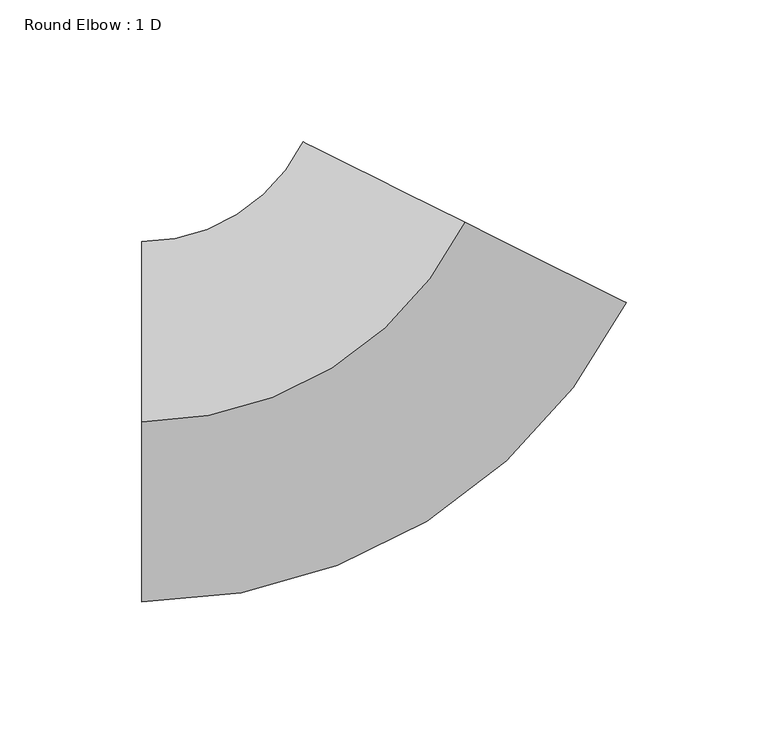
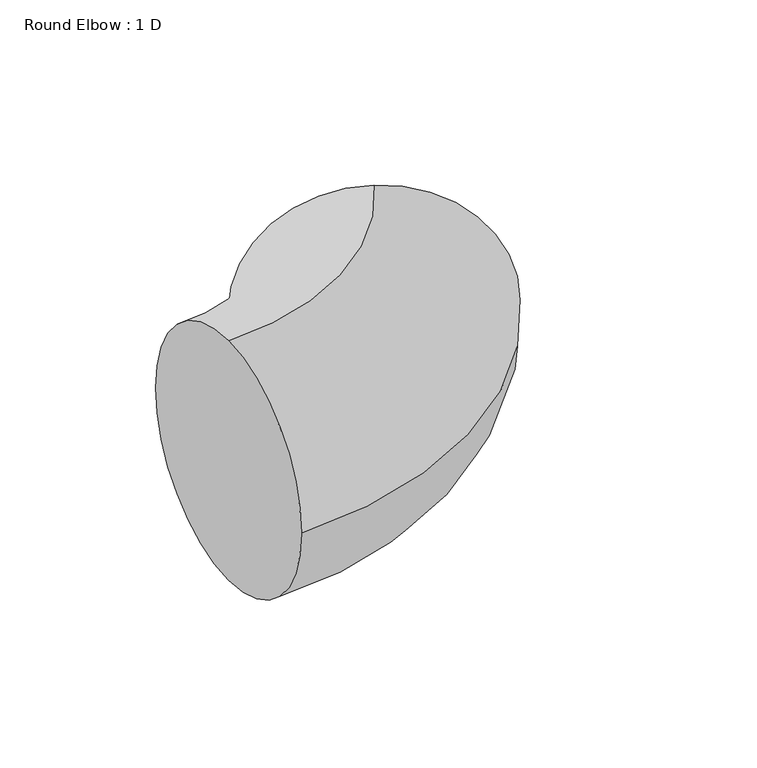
"""IFC4 building model written with IfcOpenShell, lengths in millimetres: duct fitting geometry, Round Elbow : 1 D."""

from ifc_helpers import new_model, si_unit, point, frame, origin, place, context, project, spatial, circle_curve, ellipse_curve, trimmed, source, transform, mapped, element, save
from ifc_brep_helpers import plane_surface, revolved_surface, advanced_brep


def round_elbow_1_d_21bb6db6(model_context):
    return source(origin(), model_context, "Body", "AdvancedBrep", [
        advanced_brep(
        [(-78.5903746, 0.0, 63.5), (-78.5903746, 63.5, 0.0), (-78.5903746, 0.0, -63.5), (-78.5903746, -63.5, 0.0), (35.066541, 70.3333824, 63.5), (91.8949987, 42.0000736, 0.0), (35.066541, 70.3333824, -63.5), (-21.7619168, 98.6666912, 0.0)],
        [
            (0, 1, circle_curve(frame((-78.5903746, 0.0, 0.0), z_axis=(-1.0, 0.0, 0.0), x_axis=(0.0, 1.0, 0.0)), 63.5)),
            (1, 2, circle_curve(frame((-78.5903746, 0.0, 0.0), z_axis=(-1.0, 0.0, 0.0), x_axis=(0.0, 1.0, 0.0)), 63.5)),
            (2, 3, circle_curve(frame((-78.5903746, 0.0, 0.0), z_axis=(-1.0, 0.0, 0.0), x_axis=(0.0, 1.0, 0.0)), 63.5)),
            (3, 0, circle_curve(frame((-78.5903746, 0.0, 0.0), z_axis=(-1.0, 0.0, 0.0), x_axis=(0.0, 1.0, 0.0)), 63.5)),
            (4, 5, circle_curve(frame((35.066541, 70.3333824, 0.0), z_axis=(0.4461938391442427, 0.8949363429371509, 0.0), x_axis=(-0.8949363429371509, 0.4461938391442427, 0.0)), 63.5)),
            (5, 6, circle_curve(frame((35.066541, 70.3333824, 0.0), z_axis=(0.4461938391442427, 0.8949363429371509, 0.0), x_axis=(-0.8949363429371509, 0.4461938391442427, 0.0)), 63.5)),
            (6, 7, circle_curve(frame((35.066541, 70.3333824, 0.0), z_axis=(0.4461938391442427, 0.8949363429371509, 0.0), x_axis=(-0.8949363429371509, 0.4461938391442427, 0.0)), 63.5)),
            (7, 4, circle_curve(frame((35.066541, 70.3333824, 0.0), z_axis=(0.4461938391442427, 0.8949363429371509, 0.0), x_axis=(-0.8949363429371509, 0.4461938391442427, 0.0)), 63.5)),
            (7, 1, circle_curve(frame((-78.5903746, 127.0, 0.0), z_axis=(0.0, 0.0, -1.0), x_axis=(0.0, -1.0, 0.0)), 63.5)),
            (0, 4, circle_curve(frame((-78.5903746, 127.0, 63.5), z_axis=(0.0, 0.0, 1.0), x_axis=(0.0, -1.0, 0.0)), 127.0)),
            (6, 2, circle_curve(frame((-78.5903746, 127.0, -63.5), z_axis=(0.0, 0.0, -1.0), x_axis=(0.0, -1.0, 0.0)), 127.0)),
            (5, 3, circle_curve(frame((-78.5903746, 127.0, 0.0), z_axis=(0.0, 0.0, -1.0), x_axis=(0.0, -1.0, 0.0)), 190.5)),
        ],
        [
            plane_surface(frame((-78.5903746, 0.0, 0.0), z_axis=(-1.0, 0.0, 0.0), x_axis=(0.0, 0.0, 1.0))),
            plane_surface(frame((35.066541, 70.3333824, 0.0), z_axis=(0.4461938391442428, 0.8949363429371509, 0.0), x_axis=(0.0, 0.0, 1.0))),
            revolved_surface(trimmed(ellipse_curve(frame((-78.5903746, 0.0, 0.0), z_axis=(-1.0, 0.0, 0.0), x_axis=(0.0, 1.0, 0.0)), 63.5, 63.5), [point((-78.5903746, 0.0, 63.5))], [point((-78.5903746, 63.5, 0.0))], True, "CARTESIAN"), (-78.5903746, 127.0, 0.0), (0.0, 0.0, 1.0)),
            revolved_surface(trimmed(ellipse_curve(frame((-78.5903746, 0.0, 0.0), z_axis=(-1.0, 0.0, 0.0), x_axis=(0.0, 1.0, 0.0)), 63.5, 63.5), [point((-78.5903746, 63.5, 0.0))], [point((-78.5903746, 0.0, -63.5))], True, "CARTESIAN"), (-78.5903746, 127.0, 0.0), (0.0, 0.0, 1.0)),
            revolved_surface(trimmed(ellipse_curve(frame((-78.5903746, 0.0, 0.0), z_axis=(-1.0, 0.0, 0.0), x_axis=(0.0, 1.0, 0.0)), 63.5, 63.5), [point((-78.5903746, 0.0, -63.5))], [point((-78.5903746, -63.5, 0.0))], True, "CARTESIAN"), (-78.5903746, 127.0, 0.0), (0.0, 0.0, 1.0)),
            revolved_surface(trimmed(ellipse_curve(frame((-78.5903746, 0.0, 0.0), z_axis=(-1.0, 0.0, 0.0), x_axis=(0.0, 1.0, 0.0)), 63.5, 63.5), [point((-78.5903746, -63.5, 0.0))], [point((-78.5903746, 0.0, 63.5))], True, "CARTESIAN"), (-78.5903746, 127.0, 0.0), (0.0, 0.0, 1.0)),
        ],
        [
            (0, [[1, 2, 3, 4]]),
            (1, [[5, 6, 7, 8]]),
            (2, [[9, -1, 10, -8]]),
            (3, [[11, -2, -9, -7]]),
            (4, [[12, -3, -11, -6]]),
            (5, [[-10, -4, -12, -5]]),
        ],
    ),
    ])


if __name__ == "__main__":
    model = new_model("IFC4")
    model_context = context("Model", 3, world=origin())
    ifc_project = project(units=[si_unit("LENGTHUNIT", "METRE", prefix="MILLI")], contexts=[model_context])
    site = spatial("IfcSite", under=ifc_project)
    building = spatial("IfcBuilding", under=site)
    placement = place(None, origin())
    round_elbow_1_d_shape = round_elbow_1_d_21bb6db6(model_context)
    element("IfcDuctFitting", 1, ObjectType="Round Elbow : 1 D", at=placement, inside=building, context=model_context, shape_type="MappedRepresentation", body=[
        mapped(round_elbow_1_d_shape, transform((0.0, 0.0, 0.0), x_axis=(1.0, 0.0, 0.0), y_axis=(0.0, 1.0, 0.0), z_axis=(0.0, 0.0, 1.0))),
    ])
    save(model, "model.ifc")
